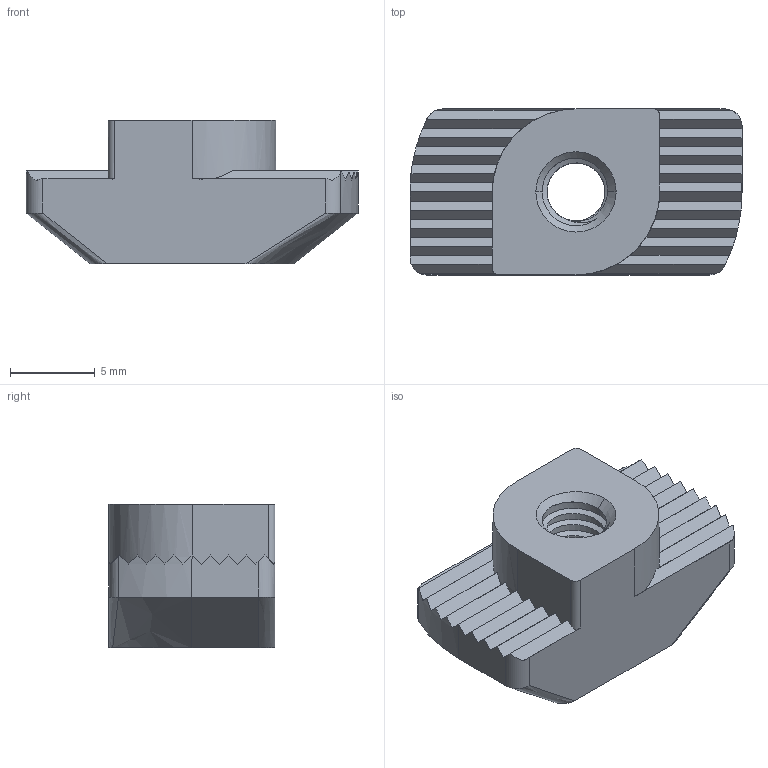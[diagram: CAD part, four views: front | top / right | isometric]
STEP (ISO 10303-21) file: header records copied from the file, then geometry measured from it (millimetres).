
FILE_DESCRIPTION(('FreeCAD Model'),'2;1');
FILE_NAME('Open CASCADE Shape Model','2021-05-04T11:47:15',('Author'),( ''),'Open CASCADE STEP processor 7.5','FreeCAD','Unknown');
FILE_SCHEMA(('AUTOMOTIVE_DESIGN { 1 0 10303 214 1 1 1 1 }'));
Length unit declared in the file: millimetre
Products named in the file (1): 1
Bounding box: 19.6 x 9.8 x 8.5 mm (x, y, z)
Volume: 1040.3 mm3; surface area: 872.5 mm2
Topology: 1 solids, 1 shells, 165 faces, 482 edges, 319 vertices
Faces by surface type: plane 66, bspline 52, cylinder 43, cone 4
Entity records: 37351 total; most frequent: CARTESIAN_POINT 29132, DIRECTION 1120, ORIENTED_EDGE 964, PCURVE 964, DEFINITIONAL_REPRESENTATION 964, LINE 701, VECTOR 701, B_SPLINE_CURVE_WITH_KNOTS 523
